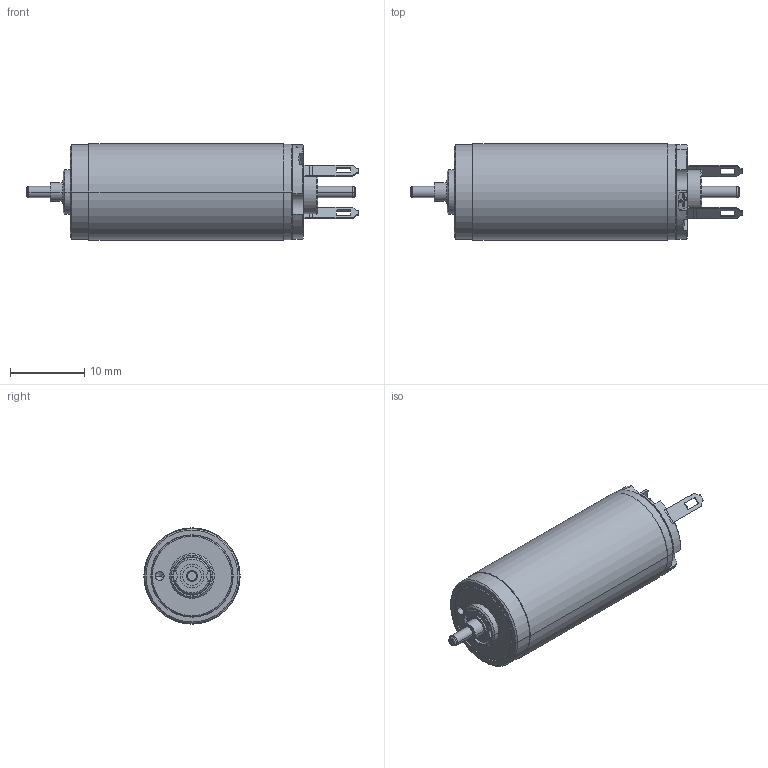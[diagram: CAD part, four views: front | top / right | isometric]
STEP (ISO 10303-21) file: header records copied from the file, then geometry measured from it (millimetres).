
FILE_DESCRIPTION((''),'2;1');
FILE_NAME('118491_2W_2WE_SW0001','2016-08-22T',('mmagpetk'),(''),'CREO PARAMETRIC BY PTC INC, 2016050','CREO PARAMETRIC BY PTC INC, 2016050','');
FILE_SCHEMA(('CONFIG_CONTROL_DESIGN'));
Length unit declared in the file: millimetre
Products named in the file (1): 118491_2W_2WE_SW0001
Bounding box: 44.8 x 13 x 13 mm (x, y, z)
Volume: 4204.5 mm3; surface area: 2053.6 mm2
Topology: 1 solids, 1 shells, 320 faces, 780 edges, 479 vertices
Faces by surface type: plane 129, cylinder 113, cone 62, torus 15, bspline 1
Entity records: 12256 total; most frequent: CARTESIAN_POINT 2160, DIRECTION 1671, ORIENTED_EDGE 1556, PRESENTATION_STYLE_ASSIGNMENT 779, STYLED_ITEM 779, CURVE_STYLE 778, EDGE_CURVE 778, AXIS2_PLACEMENT_3D 639
